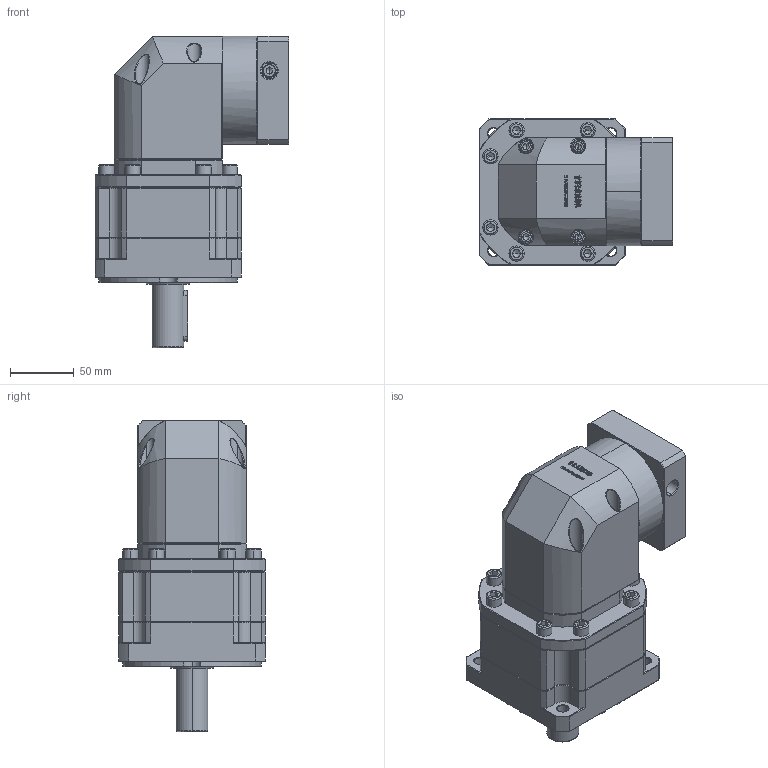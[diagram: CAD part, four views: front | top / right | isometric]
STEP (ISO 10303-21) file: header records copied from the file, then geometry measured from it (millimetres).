
FILE_DESCRIPTION (( 'STEP AP214' ), '1' );
FILE_NAME ('ZBR115A-D25-L2-16-80-100-M6.step', '2023-03-02T14:34:09', ( '' ), ( 'Microsoft' ), 'SwSTEP 2.0', 'SolidWorks 2016', '' );
FILE_SCHEMA (( 'AUTOMOTIVE_DESIGN' ));
Length unit declared in the file: millimetre
Products named in the file (1): ZBR115A-D25-L2-16-80-100-M6
Bounding box: 152.6 x 115 x 245 mm (x, y, z)
Volume: 1937787.5 mm3; surface area: 176722.5 mm2
Topology: 6 solids, 6 shells, 3200 faces, 8395 edges, 5348 vertices
Faces by surface type: plane 1699, bspline 633, cylinder 478, cone 376, torus 14
Entity records: 170791 total; most frequent: CARTESIAN_POINT 61898, ORIENTED_EDGE 16682, DIRECTION 12860, EDGE_CURVE 8341, VECTOR 5590, LINE 5590, VERTEX_POINT 5348, AXIS2_PLACEMENT_3D 3635
